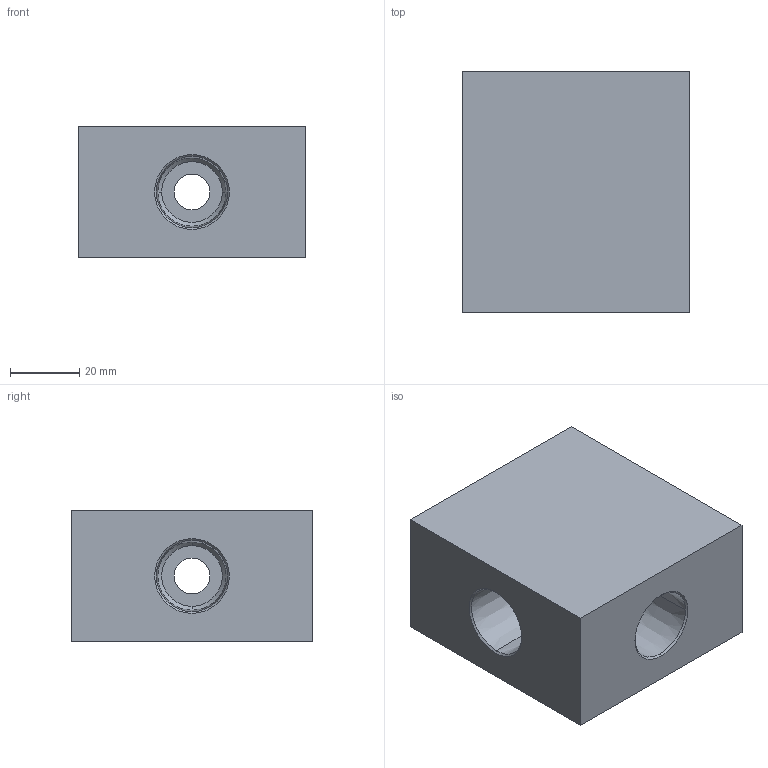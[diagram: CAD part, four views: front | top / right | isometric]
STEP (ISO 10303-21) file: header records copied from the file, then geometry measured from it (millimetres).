
FILE_DESCRIPTION (( 'STEP AP203' ), '1' );
FILE_NAME ('FTPCS08.STEP', '2026-06-26T01:06:29', ( 'USER' ), ( '' ), 'SwSTEP 2.0', 'SolidWorks 2023', '' );
FILE_SCHEMA (( 'CONFIG_CONTROL_DESIGN' ));
Length unit declared in the file: millimetre
Products named in the file (1): FTPCS08
Bounding box: 66 x 70 x 38 mm (x, y, z)
Volume: 146839.2 mm3; surface area: 25276.6 mm2
Topology: 1 solids, 1 shells, 50 faces, 112 edges, 66 vertices
Faces by surface type: cone 24, cylinder 16, plane 10
Entity records: 1469 total; most frequent: DIRECTION 258, CARTESIAN_POINT 253, ORIENTED_EDGE 224, EDGE_CURVE 112, AXIS2_PLACEMENT_3D 103, VERTEX_POINT 66, EDGE_LOOP 58, CIRCLE 52
